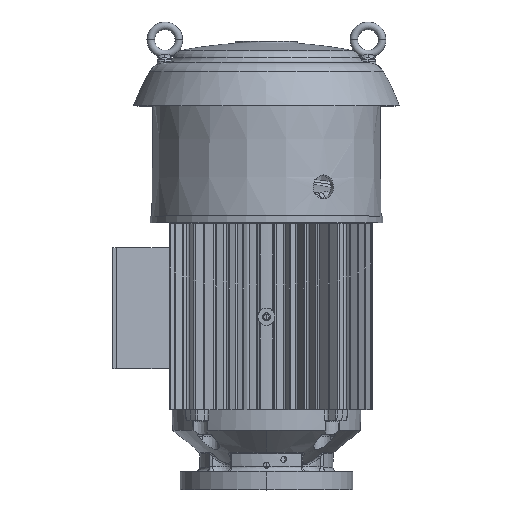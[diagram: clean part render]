
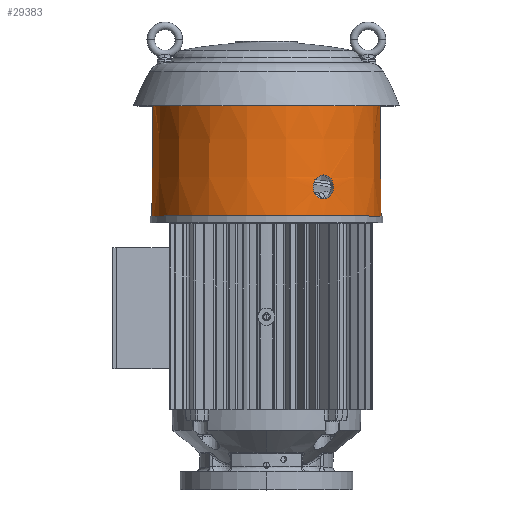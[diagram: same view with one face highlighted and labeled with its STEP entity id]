
A CAD part, top view. The second image highlights one B-rep face of the part: STEP entity #29383.
In plain terms, the highlighted conical face has half-angle 0.527 degrees and reference radius 167.532 mm.
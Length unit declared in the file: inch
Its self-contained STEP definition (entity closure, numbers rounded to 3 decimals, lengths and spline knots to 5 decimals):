
#17915=DIRECTION('',(0.009,0.,1.));
#17916=VECTOR('',#17915,6.68028);
#17917=CARTESIAN_POINT('',(-6.6265,0.,0.57));
#17918=LINE('',#17917,#17916);
#17919=DIRECTION('',(-0.009,0.,1.));
#17920=VECTOR('',#17919,6.68028);
#17921=CARTESIAN_POINT('',(6.6265,0.,0.57));
#17922=LINE('',#17921,#17920);
#17923=CARTESIAN_POINT('',(0.,0.,0.57));
#17924=DIRECTION('',(0.,0.,1.));
#17925=DIRECTION('',(-1.,0.,0.));
#17926=AXIS2_PLACEMENT_3D('',#17923,#17924,#17925);
#17928=CARTESIAN_POINT('',(3.30868,-5.7308,1.5625));
#17929=CARTESIAN_POINT('',(3.26126,-5.75818,1.5625));
#17930=CARTESIAN_POINT('',(3.16514,-5.81195,
1.57548));
#17931=CARTESIAN_POINT('',(3.02345,-5.88615,
1.63612));
#17932=CARTESIAN_POINT('',(2.90039,-5.94656,
1.7318));
#17933=CARTESIAN_POINT('',(2.80189,-5.9922,
1.85329));
#17934=CARTESIAN_POINT('',(2.7281,-6.02448,
2.00406));
#17935=CARTESIAN_POINT('',(2.69098,-6.03939,
2.16888));
#17936=CARTESIAN_POINT('',(2.69023,-6.03809,
2.33085));
#17937=CARTESIAN_POINT('',(2.72559,-6.02065,
2.49518));
#17938=CARTESIAN_POINT('',(2.79785,-5.98603,
2.64622));
#17939=CARTESIAN_POINT('',(2.89567,-5.93824,
2.76826));
#17940=CARTESIAN_POINT('',(3.01735,-5.87658,
2.86355));
#17941=CARTESIAN_POINT('',(3.15825,-5.80157,
2.92435));
#17942=CARTESIAN_POINT('',(3.25464,-5.74739,2.9375));
#17943=CARTESIAN_POINT('',(3.30235,-5.71984,2.9375));
#17945=CARTESIAN_POINT('',(3.30235,-5.71984,2.9375));
#17946=CARTESIAN_POINT('',(3.34982,-5.69244,2.9375));
#17947=CARTESIAN_POINT('',(3.44464,-5.63624,
2.92449));
#17948=CARTESIAN_POINT('',(3.5803,-5.55158,
2.8638));
#17949=CARTESIAN_POINT('',(3.695,-5.47674,
2.76809));
#17950=CARTESIAN_POINT('',(3.78489,-5.41619,
2.64654));
#17951=CARTESIAN_POINT('',(3.8511,-5.37085,
2.49571));
#17952=CARTESIAN_POINT('',(3.88406,-5.34883,
2.33086));
#17953=CARTESIAN_POINT('',(3.88475,-5.35017,
2.16889));
#17954=CARTESIAN_POINT('',(3.85344,-5.37474,
2.00459));
#17955=CARTESIAN_POINT('',(3.78869,-5.42244,
1.85362));
#17956=CARTESIAN_POINT('',(3.69951,-5.4852,
1.73163));
#17957=CARTESIAN_POINT('',(3.58613,-5.56126,
1.63638));
#17958=CARTESIAN_POINT('',(3.45128,-5.64674,
1.57562));
#17959=CARTESIAN_POINT('',(3.35635,-5.70328,1.5625));
#17960=CARTESIAN_POINT('',(3.30868,-5.7308,1.5625));
#17962=CARTESIAN_POINT('',(0.,0.,7.25));
#17963=DIRECTION('',(0.,0.,1.));
#17964=DIRECTION('',(-1.,0.,0.));
#17965=AXIS2_PLACEMENT_3D('',#17962,#17963,#17964);
#21289=CARTESIAN_POINT('',(-6.6265,0.,0.57));
#21290=CARTESIAN_POINT('',(-6.565,0.,7.25));
#21291=VERTEX_POINT('',#21289);
#21292=VERTEX_POINT('',#21290);
#21297=CARTESIAN_POINT('',(6.6265,0.,0.57));
#21298=CARTESIAN_POINT('',(6.565,0.,7.25));
#21299=VERTEX_POINT('',#21297);
#21300=VERTEX_POINT('',#21298);
#21810=VERTEX_POINT('',#17928);
#21811=VERTEX_POINT('',#17943);
#29365=CARTESIAN_POINT('',(0.,0.,3.91));
#29366=DIRECTION('',(0.,0.,-1.));
#29367=DIRECTION('',(1.,0.,0.));
#29368=AXIS2_PLACEMENT_3D('',#29365,#29366,#29367);
#29369=CONICAL_SURFACE('',#29368,6.59575,0.527);
#29370=ORIENTED_EDGE('',*,*,#29349,.T.);
#29372=ORIENTED_EDGE('',*,*,#29371,.T.);
#29373=ORIENTED_EDGE('',*,*,#29352,.F.);
#29374=ORIENTED_EDGE('',*,*,#29339,.F.);
#29375=EDGE_LOOP('',(#29370,#29372,#29373,#29374));
#29376=FACE_OUTER_BOUND('',#29375,.F.);
#29378=ORIENTED_EDGE('',*,*,#29377,.F.);
#29380=ORIENTED_EDGE('',*,*,#29379,.F.);
#29381=EDGE_LOOP('',(#29378,#29380));
#29382=FACE_BOUND('',#29381,.F.);
#29383=ADVANCED_FACE('',(#29376,#29382),#29369,.T.);
#17927=CIRCLE('',#17926,6.6265);
#17944=B_SPLINE_CURVE_WITH_KNOTS('',3,(#17928,#17929,#17930,#17931,#17932,
#17933,#17934,#17935,#17936,#17937,#17938,#17939,#17940,#17941,#17942,#17943),
.UNSPECIFIED.,.F.,.F.,(4,1,1,1,1,1,1,1,1,1,1,1,1,4),(0.,0.07692,
0.15385,0.23077,0.30769,0.38462,
0.46154,0.53846,0.61538,0.69231,
0.76923,0.84615,0.92308,1.),.UNSPECIFIED.);
#17961=B_SPLINE_CURVE_WITH_KNOTS('',3,(#17945,#17946,#17947,#17948,#17949,
#17950,#17951,#17952,#17953,#17954,#17955,#17956,#17957,#17958,#17959,#17960),
.UNSPECIFIED.,.F.,.F.,(4,1,1,1,1,1,1,1,1,1,1,1,1,4),(0.,0.07692,
0.15385,0.23077,0.30769,0.38462,
0.46154,0.53846,0.61538,0.69231,
0.76923,0.84615,0.92308,1.),.UNSPECIFIED.);
#17966=CIRCLE('',#17965,6.565);
#29339=EDGE_CURVE('',#21291,#21299,#17927,.T.);
#29349=EDGE_CURVE('',#21291,#21292,#17918,.T.);
#29352=EDGE_CURVE('',#21299,#21300,#17922,.T.);
#29371=EDGE_CURVE('',#21292,#21300,#17966,.T.);
#29377=EDGE_CURVE('',#21810,#21811,#17944,.T.);
#29379=EDGE_CURVE('',#21811,#21810,#17961,.T.);
